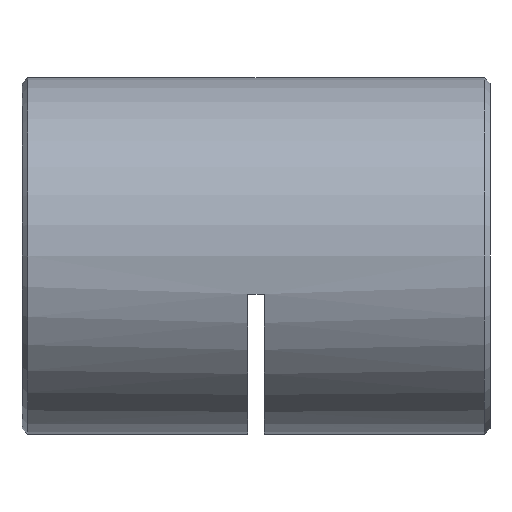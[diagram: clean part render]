
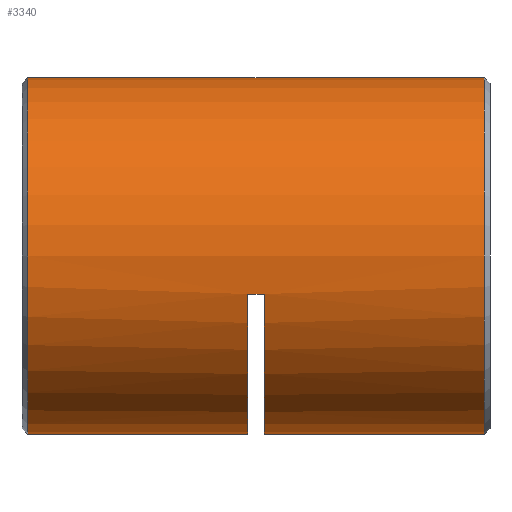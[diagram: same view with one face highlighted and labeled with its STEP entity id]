
A CAD part, left-side view. The second image highlights one B-rep face of the part: STEP entity #3340.
In plain terms, the highlighted cylindrical face has radius 16 mm (diameter 32 mm), a partial arc.
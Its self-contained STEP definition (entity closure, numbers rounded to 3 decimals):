
#80 = CIRCLE ( 'NONE', #5248, 16. ) ;
#108 = VERTEX_POINT ( 'NONE', #907 ) ;
#110 = CARTESIAN_POINT ( 'NONE',  ( 0., 22., 0. ) ) ;
#144 = DIRECTION ( 'NONE',  ( 0., -1., 0. ) ) ;
#289 = ORIENTED_EDGE ( 'NONE', *, *, #4571, .F. ) ;
#451 = AXIS2_PLACEMENT_3D ( 'NONE', #5481, #5964, #3129 ) ;
#570 = CARTESIAN_POINT ( 'NONE',  ( -15.632, 22., -3.413 ) ) ;
#603 = DIRECTION ( 'NONE',  ( 0., 0., -1. ) ) ;
#665 = VERTEX_POINT ( 'NONE', #570 ) ;
#781 = CARTESIAN_POINT ( 'NONE',  ( 0., 41.75, 16. ) ) ;
#907 = CARTESIAN_POINT ( 'NONE',  ( 0., 41.75, -16. ) ) ;
#964 = CARTESIAN_POINT ( 'NONE',  ( 0., 20.5, -16. ) ) ;
#1053 = CARTESIAN_POINT ( 'NONE',  ( 0., 20.5, 0. ) ) ;
#1182 = VERTEX_POINT ( 'NONE', #3007 ) ;
#1227 = VECTOR ( 'NONE', #5211, 1000. ) ;
#1353 = EDGE_CURVE ( 'NONE', #5383, #6061, #5117, .T. ) ;
#1428 = CARTESIAN_POINT ( 'NONE',  ( 0., 42.5, -16. ) ) ;
#1491 = DIRECTION ( 'NONE',  ( 0., -1., 0. ) ) ;
#1497 = DIRECTION ( 'NONE',  ( 0., -1., 0. ) ) ;
#1592 = CARTESIAN_POINT ( 'NONE',  ( 0., 0.75, -16. ) ) ;
#1594 = AXIS2_PLACEMENT_3D ( 'NONE', #1706, #1639, #4994 ) ;
#1639 = DIRECTION ( 'NONE',  ( 0., -1., 0. ) ) ;
#1685 = ORIENTED_EDGE ( 'NONE', *, *, #1353, .F. ) ;
#1699 = EDGE_LOOP ( 'NONE', ( #1685, #2986, #4306, #289, #2082, #3134, #4997, #3736 ) ) ;
#1706 = CARTESIAN_POINT ( 'NONE',  ( 0., 42.5, 0. ) ) ;
#1859 = CIRCLE ( 'NONE', #451, 16. ) ;
#1903 = CARTESIAN_POINT ( 'NONE',  ( -15.632, 21.25, -3.413 ) ) ;
#1911 = FACE_OUTER_BOUND ( 'NONE', #1699, .T. ) ;
#2009 = CARTESIAN_POINT ( 'NONE',  ( 0., 0.75, 16. ) ) ;
#2032 = DIRECTION ( 'NONE',  ( 0., -1., 0. ) ) ;
#2082 = ORIENTED_EDGE ( 'NONE', *, *, #5905, .T. ) ;
#2199 = DIRECTION ( 'NONE',  ( 0., -1., 0. ) ) ;
#2459 = VECTOR ( 'NONE', #1497, 1000. ) ;
#2503 = CARTESIAN_POINT ( 'NONE',  ( -15.632, 20.5, -3.413 ) ) ;
#2613 = VECTOR ( 'NONE', #2199, 1000. ) ;
#2700 = EDGE_CURVE ( 'NONE', #6141, #3240, #4954, .T. ) ;
#2986 = ORIENTED_EDGE ( 'NONE', *, *, #3160, .T. ) ;
#3007 = CARTESIAN_POINT ( 'NONE',  ( 0., 22., -16. ) ) ;
#3129 = DIRECTION ( 'NONE',  ( 0., 0., 1. ) ) ;
#3134 = ORIENTED_EDGE ( 'NONE', *, *, #5179, .T. ) ;
#3160 = EDGE_CURVE ( 'NONE', #5383, #108, #80, .T. ) ;
#3240 = VERTEX_POINT ( 'NONE', #1592 ) ;
#3340 = ADVANCED_FACE ( 'NONE', ( #1911 ), #3406, .T. ) ;
#3406 = CYLINDRICAL_SURFACE ( 'NONE', #1594, 16. ) ;
#3423 = VERTEX_POINT ( 'NONE', #2503 ) ;
#3487 = DIRECTION ( 'NONE',  ( 0., 0., -1. ) ) ;
#3632 = EDGE_CURVE ( 'NONE', #108, #1182, #4123, .T. ) ;
#3671 = CARTESIAN_POINT ( 'NONE',  ( 0., 42.5, 16. ) ) ;
#3736 = ORIENTED_EDGE ( 'NONE', *, *, #4929, .T. ) ;
#3835 = CARTESIAN_POINT ( 'NONE',  ( 0., 41.75, 0. ) ) ;
#3914 = AXIS2_PLACEMENT_3D ( 'NONE', #110, #144, #3487 ) ;
#3993 = CARTESIAN_POINT ( 'NONE',  ( 0., 42.5, -16. ) ) ;
#4123 = LINE ( 'NONE', #3993, #5234 ) ;
#4209 = LINE ( 'NONE', #1903, #1227 ) ;
#4298 = CIRCLE ( 'NONE', #5809, 16. ) ;
#4306 = ORIENTED_EDGE ( 'NONE', *, *, #3632, .T. ) ;
#4480 = DIRECTION ( 'NONE',  ( 0., -1., 0. ) ) ;
#4571 = EDGE_CURVE ( 'NONE', #665, #1182, #5492, .T. ) ;
#4929 = EDGE_CURVE ( 'NONE', #3240, #6061, #1859, .T. ) ;
#4954 = LINE ( 'NONE', #1428, #2459 ) ;
#4994 = DIRECTION ( 'NONE',  ( 0., 0., -1. ) ) ;
#4997 = ORIENTED_EDGE ( 'NONE', *, *, #2700, .T. ) ;
#5117 = LINE ( 'NONE', #3671, #2613 ) ;
#5179 = EDGE_CURVE ( 'NONE', #3423, #6141, #4298, .T. ) ;
#5211 = DIRECTION ( 'NONE',  ( 0., -1., 0. ) ) ;
#5234 = VECTOR ( 'NONE', #4480, 1000. ) ;
#5235 = DIRECTION ( 'NONE',  ( 0., 0., -1. ) ) ;
#5248 = AXIS2_PLACEMENT_3D ( 'NONE', #3835, #1491, #5235 ) ;
#5383 = VERTEX_POINT ( 'NONE', #781 ) ;
#5481 = CARTESIAN_POINT ( 'NONE',  ( 0., 0.75, 0. ) ) ;
#5492 = CIRCLE ( 'NONE', #3914, 16. ) ;
#5809 = AXIS2_PLACEMENT_3D ( 'NONE', #1053, #2032, #603 ) ;
#5905 = EDGE_CURVE ( 'NONE', #665, #3423, #4209, .T. ) ;
#5964 = DIRECTION ( 'NONE',  ( 0., 1., 0. ) ) ;
#6061 = VERTEX_POINT ( 'NONE', #2009 ) ;
#6141 = VERTEX_POINT ( 'NONE', #964 ) ;
